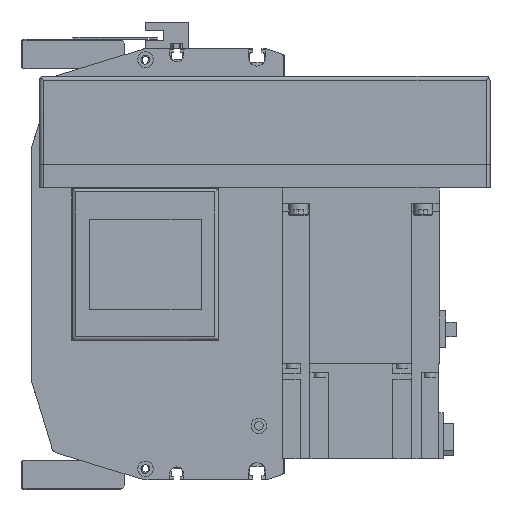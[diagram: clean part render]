
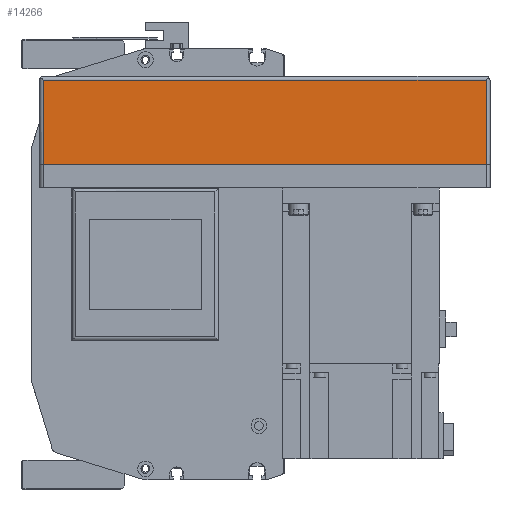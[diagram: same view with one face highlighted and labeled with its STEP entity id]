
A CAD part, left-side view. The second image highlights one B-rep face of the part: STEP entity #14266.
In plain terms, the highlighted planar face has unit normal (-1, 0, 0) as drawn and (0, -1, 0) by its records, which use the part's own axes.
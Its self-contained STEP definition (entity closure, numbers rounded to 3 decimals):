
#2315=ORIENTED_EDGE('',*,*,#5754,.F.);
#2316=ORIENTED_EDGE('',*,*,#5757,.T.);
#2317=ORIENTED_EDGE('',*,*,#5758,.T.);
#2318=ORIENTED_EDGE('',*,*,#5759,.F.);
#5754=EDGE_CURVE('',#7601,#7602,#9081,.T.);
#5757=EDGE_CURVE('',#7601,#7604,#9083,.T.);
#5758=EDGE_CURVE('',#7604,#7605,#9084,.T.);
#5759=EDGE_CURVE('',#7602,#7605,#9085,.T.);
#7601=VERTEX_POINT('',#22203);
#7602=VERTEX_POINT('',#22205);
#7604=VERTEX_POINT('',#22211);
#7605=VERTEX_POINT('',#22213);
#9081=LINE('',#22204,#10424);
#9083=LINE('',#22210,#10426);
#9084=LINE('',#22212,#10427);
#9085=LINE('',#22214,#10428);
#10424=VECTOR('',#17740,1000.);
#10426=VECTOR('',#17746,1000.);
#10427=VECTOR('',#17747,1000.);
#10428=VECTOR('',#17748,1000.);
#11592=EDGE_LOOP('',(#2315,#2316,#2317,#2318));
#12695=FACE_BOUND('',#11592,.T.);
#13654=PLANE('',#15294);
#14266=ADVANCED_FACE('',(#12695),#13654,.T.);
#15294=AXIS2_PLACEMENT_3D('',#22209,#17744,#17745);
#17740=DIRECTION('',(0.,0.,1.));
#17744=DIRECTION('',(0.,-1.,0.));
#17745=DIRECTION('',(0.,0.,-1.));
#17746=DIRECTION('',(1.,0.,0.));
#17747=DIRECTION('',(0.,0.,1.));
#17748=DIRECTION('',(1.,0.,0.));
#22203=CARTESIAN_POINT('',(-228.,-54.,-55.));
#22204=CARTESIAN_POINT('',(-228.,-54.,-57.));
#22205=CARTESIAN_POINT('',(-228.,-54.,-12.));
#22209=CARTESIAN_POINT('',(-228.,-54.,-57.));
#22210=CARTESIAN_POINT('',(-230.,-54.,-55.));
#22211=CARTESIAN_POINT('',(-2.,-54.,-55.));
#22212=CARTESIAN_POINT('',(-2.,-54.,-57.));
#22213=CARTESIAN_POINT('',(-2.,-54.,-12.));
#22214=CARTESIAN_POINT('',(-228.,-54.,-12.));
